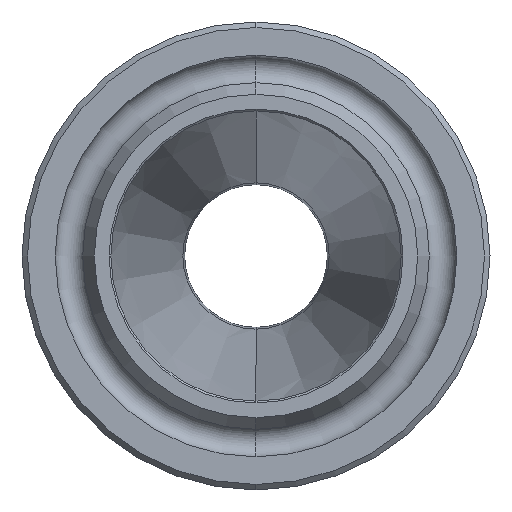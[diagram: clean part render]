
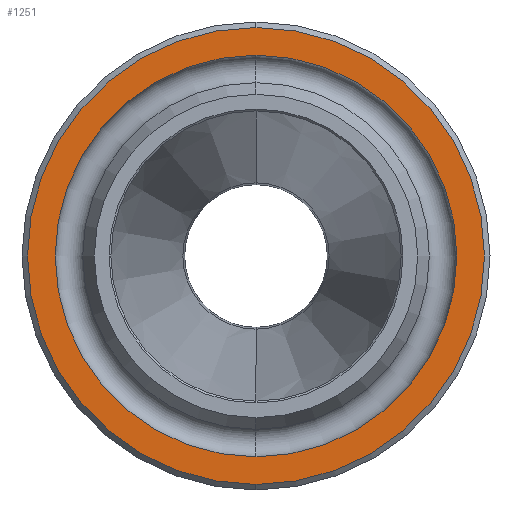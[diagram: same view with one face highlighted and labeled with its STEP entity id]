
A CAD part, left-side view. The second image highlights one B-rep face of the part: STEP entity #1251.
In plain terms, the highlighted planar face has unit normal (-1, 0, 0).
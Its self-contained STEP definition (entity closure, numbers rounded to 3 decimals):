
#108 = ORIENTED_EDGE ( 'NONE', *, *, #121, .F. ) ;
#121 = EDGE_CURVE ( 'NONE', #237, #326, #330, .T. ) ;
#190 = ORIENTED_EDGE ( 'NONE', *, *, #995, .F. ) ;
#226 = CARTESIAN_POINT ( 'NONE',  ( -38.1, 0., 0. ) ) ;
#234 = DIRECTION ( 'NONE',  ( -1., 0., 0. ) ) ;
#237 = VERTEX_POINT ( 'NONE', #795 ) ;
#258 = DIRECTION ( 'NONE',  ( 0., 0., 1. ) ) ;
#267 = DIRECTION ( 'NONE',  ( 0., 0., 1. ) ) ;
#286 = ORIENTED_EDGE ( 'NONE', *, *, #713, .T. ) ;
#303 = AXIS2_PLACEMENT_3D ( 'NONE', #1377, #1381, #1392 ) ;
#326 = VERTEX_POINT ( 'NONE', #1344 ) ;
#330 = CIRCLE ( 'NONE', #303, 10.9 ) ;
#335 = CIRCLE ( 'NONE', #1108, 12.4 ) ;
#358 = CIRCLE ( 'NONE', #803, 10.9 ) ;
#386 = EDGE_LOOP ( 'NONE', ( #190, #108 ) ) ;
#442 = ORIENTED_EDGE ( 'NONE', *, *, #689, .T. ) ;
#534 = VERTEX_POINT ( 'NONE', #1186 ) ;
#546 = FACE_BOUND ( 'NONE', #386, .T. ) ;
#580 = CARTESIAN_POINT ( 'NONE',  ( -38.1, 0., 0. ) ) ;
#689 = EDGE_CURVE ( 'NONE', #534, #817, #1290, .T. ) ;
#713 = EDGE_CURVE ( 'NONE', #817, #534, #335, .T. ) ;
#752 = EDGE_LOOP ( 'NONE', ( #442, #286 ) ) ;
#762 = DIRECTION ( 'NONE',  ( 1., 0., 0. ) ) ;
#773 = CARTESIAN_POINT ( 'NONE',  ( -38.1, 0., 0. ) ) ;
#795 = CARTESIAN_POINT ( 'NONE',  ( -38.1, 0., -10.9 ) ) ;
#803 = AXIS2_PLACEMENT_3D ( 'NONE', #1062, #1069, #1098 ) ;
#817 = VERTEX_POINT ( 'NONE', #1078 ) ;
#859 = DIRECTION ( 'NONE',  ( -1., 0., 0. ) ) ;
#860 = PLANE ( 'NONE',  #1127 ) ;
#874 = DIRECTION ( 'NONE',  ( 0., 0., -1. ) ) ;
#896 = AXIS2_PLACEMENT_3D ( 'NONE', #580, #859, #267 ) ;
#995 = EDGE_CURVE ( 'NONE', #326, #237, #358, .T. ) ;
#1062 = CARTESIAN_POINT ( 'NONE',  ( -38.1, 0., 0. ) ) ;
#1069 = DIRECTION ( 'NONE',  ( -1., 0., 0. ) ) ;
#1078 = CARTESIAN_POINT ( 'NONE',  ( -38.1, 0., 12.4 ) ) ;
#1082 = FACE_OUTER_BOUND ( 'NONE', #752, .T. ) ;
#1098 = DIRECTION ( 'NONE',  ( 0., 0., 1. ) ) ;
#1108 = AXIS2_PLACEMENT_3D ( 'NONE', #226, #234, #258 ) ;
#1127 = AXIS2_PLACEMENT_3D ( 'NONE', #773, #762, #874 ) ;
#1186 = CARTESIAN_POINT ( 'NONE',  ( -38.1, 0., -12.4 ) ) ;
#1251 = ADVANCED_FACE ( 'NONE', ( #1082, #546 ), #860, .F. ) ;
#1290 = CIRCLE ( 'NONE', #896, 12.4 ) ;
#1344 = CARTESIAN_POINT ( 'NONE',  ( -38.1, 0., 10.9 ) ) ;
#1377 = CARTESIAN_POINT ( 'NONE',  ( -38.1, 0., 0. ) ) ;
#1381 = DIRECTION ( 'NONE',  ( -1., 0., 0. ) ) ;
#1392 = DIRECTION ( 'NONE',  ( 0., 0., 1. ) ) ;
